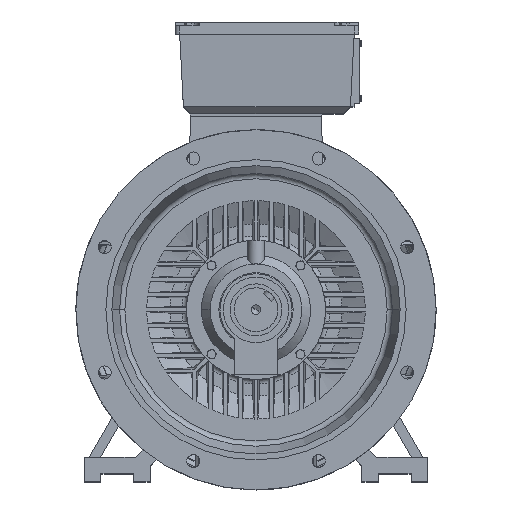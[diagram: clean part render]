
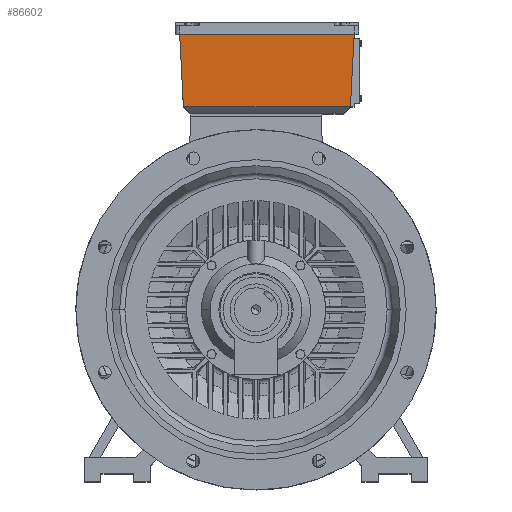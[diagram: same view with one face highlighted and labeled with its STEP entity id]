
A CAD part, top view. The second image highlights one B-rep face of the part: STEP entity #86602.
In plain terms, the highlighted planar face has unit normal (0, -0.051, 0.999) as drawn and (-0.999, 0, -0.051) by its records, which use the part's own axes.
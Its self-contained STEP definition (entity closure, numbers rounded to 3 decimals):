
#5871 = CARTESIAN_POINT ( 'NONE',  ( -140., -180., 150. ) ) ;
#5878 = PLANE ( 'NONE',  #143487 ) ;
#5880 = DIRECTION ( 'NONE',  ( -0.999, 0., -0.051 ) ) ;
#5881 = DIRECTION ( 'NONE',  ( 0., 1., 0. ) ) ;
#12778 = LINE ( 'NONE', #159462, #12783 ) ;
#12783 = VECTOR ( 'NONE', #159467, 1000. ) ;
#12785 = LINE ( 'NONE', #159464, #12788 ) ;
#12788 = VECTOR ( 'NONE', #159453, 1000. ) ;
#12838 = LINE ( 'NONE', #159558, #12842 ) ;
#12842 = VECTOR ( 'NONE', #159547, 1000. ) ;
#86602 = ADVANCED_FACE ( 'NONE', ( #207864 ), #5878, .T. ) ;
#96430 = EDGE_CURVE ( 'NONE', #111143, #111155, #12778, .T. ) ;
#96434 = EDGE_CURVE ( 'NONE', #111155, #111112, #12785, .T. ) ;
#96468 = EDGE_CURVE ( 'NONE', #111112, #111100, #12838, .T. ) ;
#111100 = VERTEX_POINT ( 'NONE', #212736 ) ;
#111112 = VERTEX_POINT ( 'NONE', #212768 ) ;
#111143 = VERTEX_POINT ( 'NONE', #212849 ) ;
#111151 = VERTEX_POINT ( 'NONE', #212882 ) ;
#111155 = VERTEX_POINT ( 'NONE', #212888 ) ;
#111194 = VERTEX_POINT ( 'NONE', #213001 ) ;
#113072 = EDGE_CURVE ( 'NONE', #111194, #111143, #262046, .T. ) ;
#113086 = EDGE_CURVE ( 'NONE', #111194, #111151, #262076, .T. ) ;
#113103 = EDGE_CURVE ( 'NONE', #111151, #111100, #262121, .T. ) ;
#143487 = AXIS2_PLACEMENT_3D ( 'NONE', #5871, #5880, #5881 ) ;
#159453 = DIRECTION ( 'NONE',  ( 0., -1., 0. ) ) ;
#159462 = CARTESIAN_POINT ( 'NONE',  ( -133., 0., 13. ) ) ;
#159464 = CARTESIAN_POINT ( 'NONE',  ( -133., 0., 13. ) ) ;
#159467 = DIRECTION ( 'NONE',  ( 0., -1., 0. ) ) ;
#159547 = DIRECTION ( 'NONE',  ( -0.051, -0.051, 0.997 ) ) ;
#159558 = CARTESIAN_POINT ( 'NONE',  ( -136.5, -176.5, 81.5 ) ) ;
#182024 = EDGE_LOOP ( 'NONE', ( #192295, #192293, #192291, #192289, #192286, #192284 ) ) ;
#192284 = ORIENTED_EDGE ( 'NONE', *, *, #96468, .T. ) ;
#192286 = ORIENTED_EDGE ( 'NONE', *, *, #96434, .T. ) ;
#192289 = ORIENTED_EDGE ( 'NONE', *, *, #96430, .T. ) ;
#192291 = ORIENTED_EDGE ( 'NONE', *, *, #113072, .T. ) ;
#192293 = ORIENTED_EDGE ( 'NONE', *, *, #113086, .F. ) ;
#192295 = ORIENTED_EDGE ( 'NONE', *, *, #113103, .F. ) ;
#207864 = FACE_OUTER_BOUND ( 'NONE', #182024, .T. ) ;
#212736 = CARTESIAN_POINT ( 'NONE',  ( -140., -180., 150. ) ) ;
#212768 = CARTESIAN_POINT ( 'NONE',  ( -133., -173., 13. ) ) ;
#212849 = CARTESIAN_POINT ( 'NONE',  ( -133., 133., 13. ) ) ;
#212882 = CARTESIAN_POINT ( 'NONE',  ( -140., 0., 150. ) ) ;
#212888 = CARTESIAN_POINT ( 'NONE',  ( -133., 0., 13. ) ) ;
#213001 = CARTESIAN_POINT ( 'NONE',  ( -140., 140., 150. ) ) ;
#262035 = VECTOR ( 'NONE', #266384, 1000. ) ;
#262046 = LINE ( 'NONE', #266368, #262035 ) ;
#262064 = VECTOR ( 'NONE', #266505, 1000. ) ;
#262076 = LINE ( 'NONE', #266442, #262087 ) ;
#262087 = VECTOR ( 'NONE', #266446, 1000. ) ;
#262121 = LINE ( 'NONE', #266497, #262064 ) ;
#266368 = CARTESIAN_POINT ( 'NONE',  ( -136.5, 136.5, 81.5 ) ) ;
#266384 = DIRECTION ( 'NONE',  ( 0.051, -0.051, -0.997 ) ) ;
#266442 = CARTESIAN_POINT ( 'NONE',  ( -140., 0., 150. ) ) ;
#266446 = DIRECTION ( 'NONE',  ( 0., -1., 0. ) ) ;
#266497 = CARTESIAN_POINT ( 'NONE',  ( -140., -180., 150. ) ) ;
#266505 = DIRECTION ( 'NONE',  ( 0., -1., 0. ) ) ;
